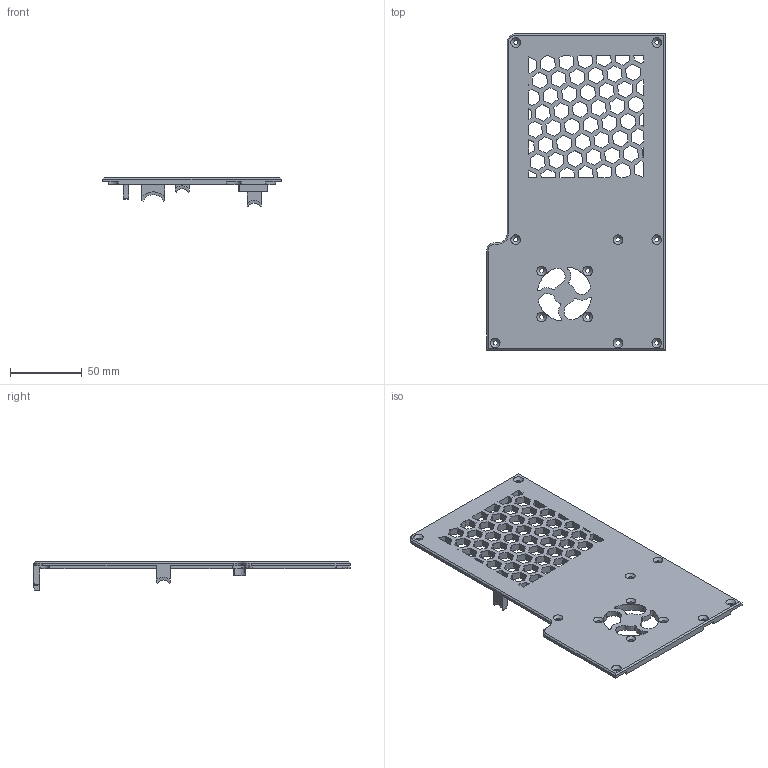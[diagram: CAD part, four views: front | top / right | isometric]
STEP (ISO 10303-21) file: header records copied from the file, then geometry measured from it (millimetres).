
FILE_DESCRIPTION(/* description */ ('STEP AP242','CAx-IF Rec.Pracs.---Representation and Presentation of Product Manufacturing Information (PMI)---4.0---2014-10-13','CAx-IF Rec.Pracs.---3D Tessellated Geometry---0.4---2014-09-14','2;1'),/* implementation_level */ '2;1');
FILE_NAME(/* name */ '615853fae1f15918b93a2895',/* time_stamp */ '2021-10-02T12:43:40+00:00',/* author */ (''),/* organization */ (''),/* preprocessor_version */ 'ST-DEVELOPER v18.1',/* originating_system */ ' ',/* authorisation */ ' ');
FILE_SCHEMA (('AP242_MANAGED_MODEL_BASED_3D_ENGINEERING_MIM_LF { 1 0 10303 442 1 1 4 }'));
Length unit declared in the file: metre
Products named in the file (1): Part 4
Bounding box: 124.25 x 219.68 x 20.05 mm (x, y, z)
Volume: 96426.2 mm3; surface area: 55935.7 mm2
Topology: 1 solids, 1 shells, 499 faces, 1482 edges, 982 vertices
Faces by surface type: plane 405, cylinder 49, cone 35, bspline 10
Full cylindrical faces by diameter (mm): 3.1 x8, 3.2 x4, 38 x1
Entity records: 16783 total; most frequent: CARTESIAN_POINT 3322, ORIENTED_EDGE 2892, DIRECTION 2503, EDGE_CURVE 1446, LINE 1215, VECTOR 1215, VERTEX_POINT 971, EDGE_LOOP 665
